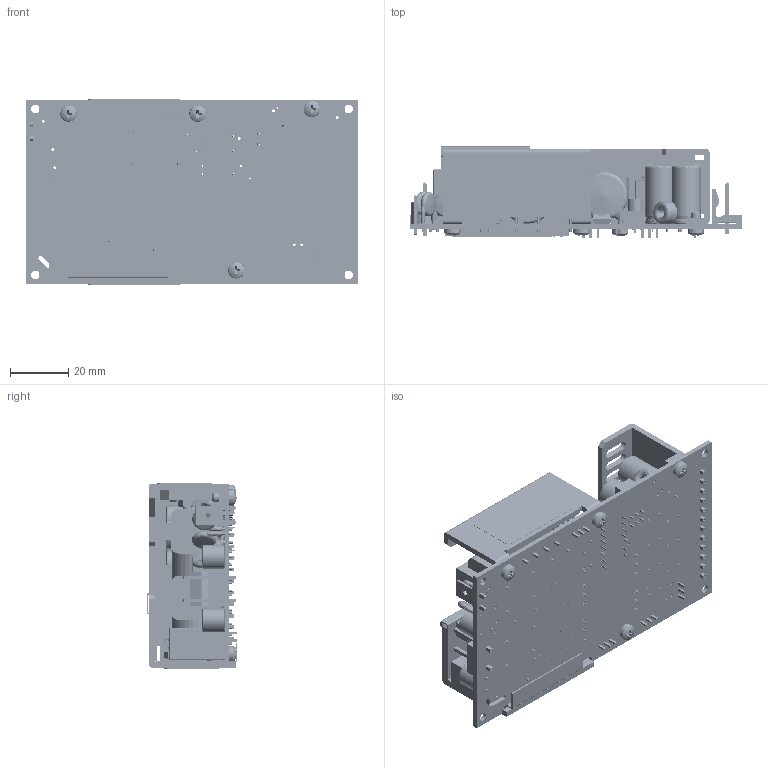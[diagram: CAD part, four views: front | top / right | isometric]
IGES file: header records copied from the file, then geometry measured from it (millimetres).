
Start section: SolidWorks IGES file using analytic representation for surfaces
Global section: file name: C:\Documents and Settings\behzar\Desktop\BEHZAR\PROJECTS\CURRENT-2010\SW-MODELS\WORKING\ECM100 Single Output.IGS; native system: SolidWorks 2010; preprocessor: SolidWorks 2010; author: BEHZAR; date: 100618.083459; units: inch
Bounding box: 114.3 x 31.3 x 63.75 mm (x, y, z)
Surface area: 71410.2 mm2 (no closed solid volume)
Topology: 0 solids, 0 shells, 2564 faces, 25110 edges, 25086 vertices
Faces by surface type: bspline 1654, revolution 910
